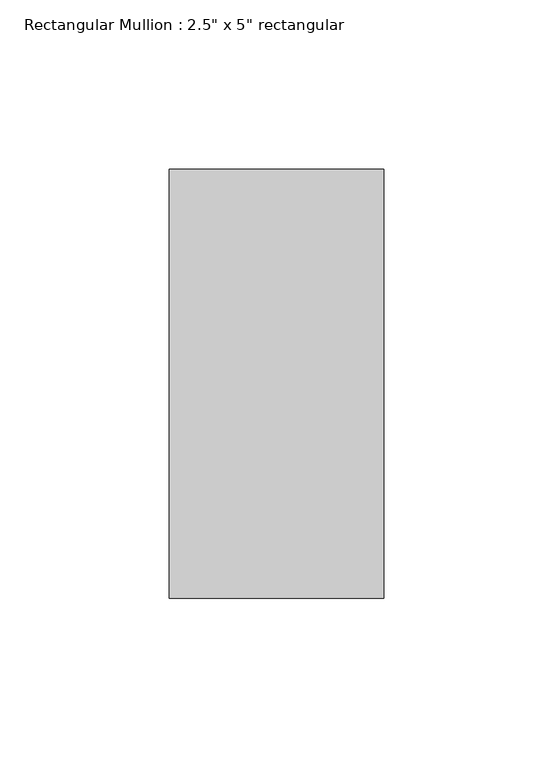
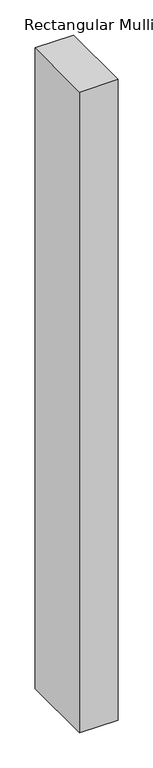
"""IFC4 building model written with IfcOpenShell, lengths in millimetres: member geometry."""

from ifc_helpers import new_model, si_unit, frame, origin, place, context, project, spatial, polyline, outline, extrude, source, transform, mapped, element, save


def member_ad47d65f(model_context):
    return source(origin(), model_context, "Body", "SweptSolid", [
        extrude(outline(polyline([(31.75, 63.5), (31.75, -63.5), (-31.75, -63.5), (-31.75, 63.5), (31.75, 63.5)])), frame((0.0, 0.0, -1114.4249998), z_axis=(0.0, 0.0, 1.0), x_axis=(1.0, 0.0, 0.0)), (0.0, 0.0, 1.0), 1114.4249998),
    ])


if __name__ == "__main__":
    model = new_model("IFC4")
    model_context = context("Model", 3, world=origin())
    ifc_project = project(units=[si_unit("LENGTHUNIT", "METRE", prefix="MILLI")], contexts=[model_context])
    site = spatial("IfcSite", under=ifc_project)
    building = spatial("IfcBuilding", under=site)
    placement = place(None, origin())
    member_shape = member_ad47d65f(model_context)
    element("IfcMember", 1, ObjectType="Rectangular Mullion : 2.5\" x 5\" rectangular", at=placement, inside=building, context=model_context, shape_type="MappedRepresentation", body=[
        mapped(member_shape, transform((0.0, 0.0, 0.0), x_axis=(1.0, 0.0, 0.0), y_axis=(0.0, 1.0, 0.0), z_axis=(0.0, 0.0, 1.0))),
    ])
    save(model, "model.ifc")
